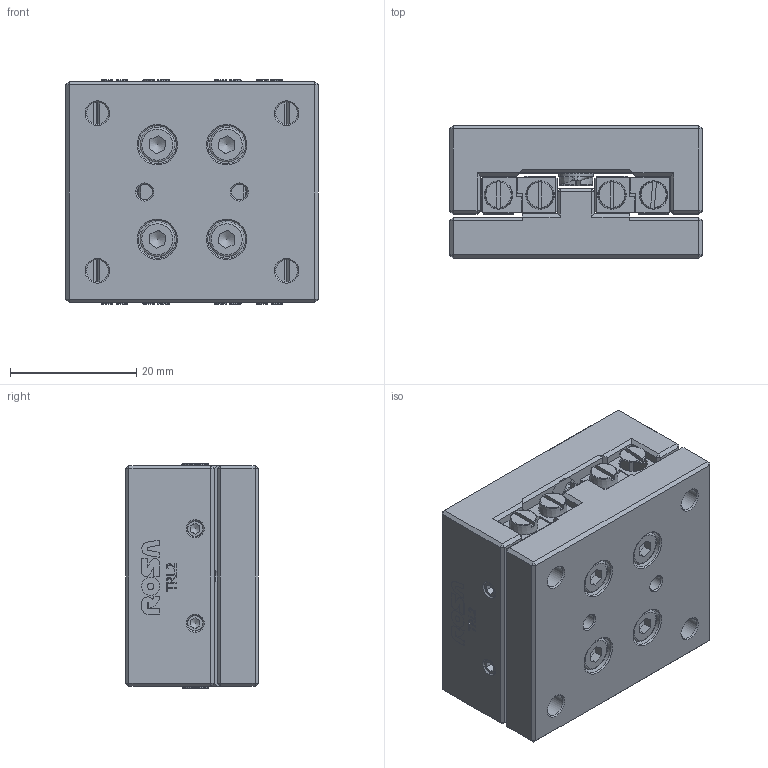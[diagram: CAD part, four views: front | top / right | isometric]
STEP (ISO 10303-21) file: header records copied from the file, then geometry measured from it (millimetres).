
FILE_DESCRIPTION(/* description */ ('Tavola TRL02 L=35 mm'),/* implementation_level */ '2;1');
FILE_NAME(/* name */ 'TRL020035-00.stp',/* time_stamp */ '2024-01-31T08:23:31+01:00',/* author */ ('ufficiotecnico'),/* organization */ (''),/* preprocessor_version */ 'ST-DEVELOPER v20',/* originating_system */ 'Autodesk Inventor 2024',/* authorisation */ '');
FILE_SCHEMA (('AUTOMOTIVE_DESIGN { 1 0 10303 214 3 1 1 }'));
Length unit declared in the file: millimetre
Products named in the file (2): TRL020035-00; TRL020035-00_1
Assembly tree (1 placements, depth 2):
  TRL020035-00
    TRL020035-00_1
Bounding box: 40 x 21 x 35.6 mm (x, y, z)
Volume: 26363.8 mm3; surface area: 13017.1 mm2
Topology: 9 solids, 9 shells, 1266 faces, 3250 edges, 2092 vertices
Faces by surface type: plane 861, bspline 156, cylinder 134, cone 71, torus 44
Full cylindrical faces by diameter (mm): 0.774 x4, 1.039 x1, 2 x1, 2.128 x4, 2.459 x10, 2.856 x1, 3 x8, 3.5 x4, 4.4 x8, 5.5 x8, 6 x12
Entity records: 39732 total; most frequent: CARTESIAN_POINT 9141, ORIENTED_EDGE 6480, DIRECTION 5598, EDGE_CURVE 3240, LINE 2196, VECTOR 2196, VERTEX_POINT 2092, AXIS2_PLACEMENT_3D 1701
